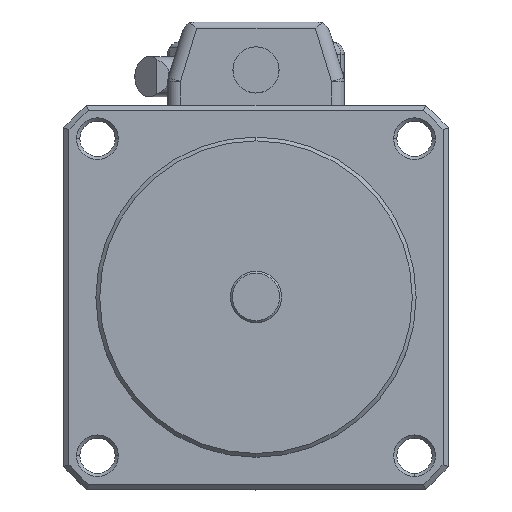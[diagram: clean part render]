
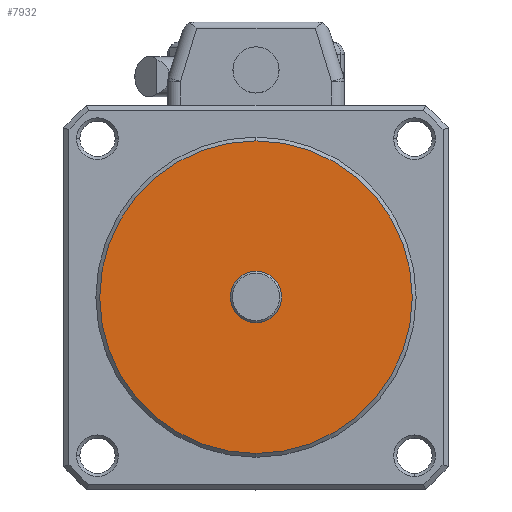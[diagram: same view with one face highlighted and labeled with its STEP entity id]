
A CAD part, top view. The second image highlights one B-rep face of the part: STEP entity #7932.
In plain terms, the highlighted planar face has unit normal (0, 0, 1).
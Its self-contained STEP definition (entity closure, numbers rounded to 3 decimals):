
#257 = FACE_OUTER_BOUND ( 'NONE', #7304, .T. ) ;
#258 = FACE_BOUND ( 'NONE', #7218, .T. ) ;
#353 = CIRCLE ( 'NONE', #14183, 4. ) ;
#355 = CIRCLE ( 'NONE', #14185, 4. ) ;
#369 = CIRCLE ( 'NONE', #14192, 24.4 ) ;
#380 = CIRCLE ( 'NONE', #14195, 24.4 ) ;
#3498 = CARTESIAN_POINT ( 'NONE',  ( -84.766, -16.748, 26.192 ) ) ;
#3596 = CARTESIAN_POINT ( 'NONE',  ( -88.766, 7.652, 26.192 ) ) ;
#3606 = CARTESIAN_POINT ( 'NONE',  ( -88.766, -41.148, 26.192 ) ) ;
#3686 = CARTESIAN_POINT ( 'NONE',  ( -92.766, -16.748, 26.192 ) ) ;
#6439 = PLANE ( 'NONE',  #14139 ) ;
#6440 = CARTESIAN_POINT ( 'NONE',  ( -114.387, -42.368, 26.192 ) ) ;
#6441 = DIRECTION ( 'NONE',  ( 0., 0., 1. ) ) ;
#6442 = DIRECTION ( 'NONE',  ( 1., 0., 0. ) ) ;
#6627 = CARTESIAN_POINT ( 'NONE',  ( -88.766, -16.748, 26.192 ) ) ;
#6628 = DIRECTION ( 'NONE',  ( 0., 0., -1. ) ) ;
#6629 = DIRECTION ( 'NONE',  ( 1., 0., 0. ) ) ;
#6633 = CARTESIAN_POINT ( 'NONE',  ( -88.766, -16.748, 26.192 ) ) ;
#6634 = DIRECTION ( 'NONE',  ( 0., 0., -1. ) ) ;
#6635 = DIRECTION ( 'NONE',  ( 1., 0., 0. ) ) ;
#6660 = CARTESIAN_POINT ( 'NONE',  ( -88.766, -16.748, 26.192 ) ) ;
#6661 = DIRECTION ( 'NONE',  ( 0., 0., -1. ) ) ;
#6662 = DIRECTION ( 'NONE',  ( 0., 1., 0. ) ) ;
#6677 = CARTESIAN_POINT ( 'NONE',  ( -88.766, -16.748, 26.192 ) ) ;
#6678 = DIRECTION ( 'NONE',  ( 0., 0., -1. ) ) ;
#6679 = DIRECTION ( 'NONE',  ( 0., 1., 0. ) ) ;
#7218 = EDGE_LOOP ( 'NONE', ( #8374, #8375 ) ) ;
#7304 = EDGE_LOOP ( 'NONE', ( #8372, #8373 ) ) ;
#7932 = ADVANCED_FACE ( 'NONE', ( #257, #258 ), #6439, .T. ) ;
#8372 = ORIENTED_EDGE ( 'NONE', *, *, #9895, .F. ) ;
#8373 = ORIENTED_EDGE ( 'NONE', *, *, #9902, .F. ) ;
#8374 = ORIENTED_EDGE ( 'NONE', *, *, #9883, .T. ) ;
#8375 = ORIENTED_EDGE ( 'NONE', *, *, #9885, .T. ) ;
#9883 = EDGE_CURVE ( 'NONE', #18191, #18379, #353, .T. ) ;
#9885 = EDGE_CURVE ( 'NONE', #18379, #18191, #355, .T. ) ;
#9895 = EDGE_CURVE ( 'NONE', #18289, #18299, #369, .T. ) ;
#9902 = EDGE_CURVE ( 'NONE', #18299, #18289, #380, .T. ) ;
#14139 = AXIS2_PLACEMENT_3D ( 'NONE', #6440, #6441, #6442 ) ;
#14183 = AXIS2_PLACEMENT_3D ( 'NONE', #6627, #6628, #6629 ) ;
#14185 = AXIS2_PLACEMENT_3D ( 'NONE', #6633, #6634, #6635 ) ;
#14192 = AXIS2_PLACEMENT_3D ( 'NONE', #6660, #6661, #6662 ) ;
#14195 = AXIS2_PLACEMENT_3D ( 'NONE', #6677, #6678, #6679 ) ;
#18191 = VERTEX_POINT ( 'NONE', #3498 ) ;
#18289 = VERTEX_POINT ( 'NONE', #3596 ) ;
#18299 = VERTEX_POINT ( 'NONE', #3606 ) ;
#18379 = VERTEX_POINT ( 'NONE', #3686 ) ;
